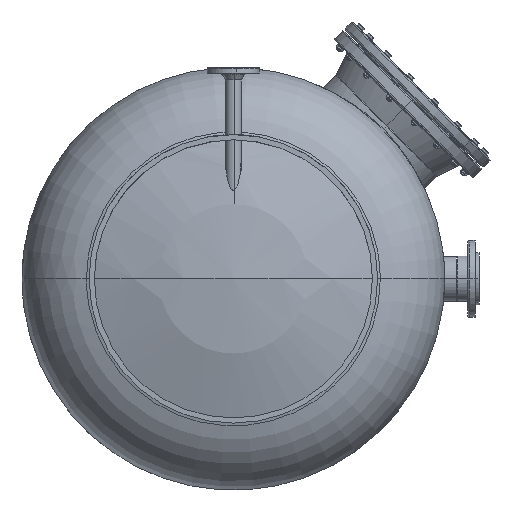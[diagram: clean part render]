
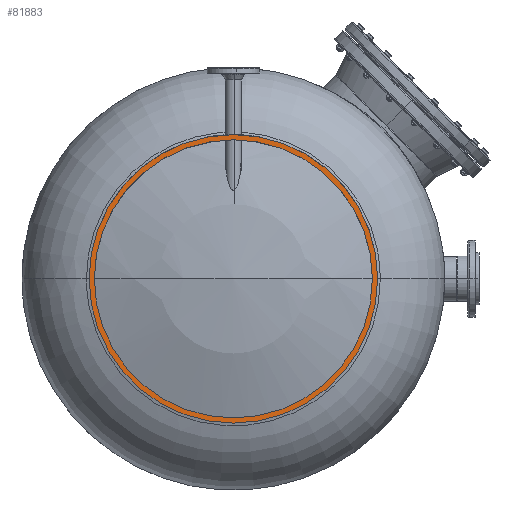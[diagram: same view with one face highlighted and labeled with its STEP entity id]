
A CAD part, front view. The second image highlights one B-rep face of the part: STEP entity #81883.
In plain terms, the highlighted planar face has unit normal (0, -1, 0).
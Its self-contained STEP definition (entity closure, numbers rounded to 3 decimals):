
#997 = DIRECTION ( 'NONE',  ( 0., 1., 0. ) ) ;
#5274 = CARTESIAN_POINT ( 'NONE',  ( 415., 0., -415.041 ) ) ;
#6316 = CARTESIAN_POINT ( 'NONE',  ( 415., 0., -415.041 ) ) ;
#7687 = VERTEX_POINT ( 'NONE', #43391 ) ;
#9596 = DIRECTION ( 'NONE',  ( 0., 1., 0. ) ) ;
#10304 = AXIS2_PLACEMENT_3D ( 'NONE', #6316, #48538, #64126 ) ;
#11215 = ORIENTED_EDGE ( 'NONE', *, *, #54090, .T. ) ;
#16665 = VERTEX_POINT ( 'NONE', #30364 ) ;
#18099 = EDGE_CURVE ( 'NONE', #58456, #7687, #32348, .T. ) ;
#20353 = ORIENTED_EDGE ( 'NONE', *, *, #18099, .F. ) ;
#21111 = DIRECTION ( 'NONE',  ( 1., 0., 0. ) ) ;
#22103 = DIRECTION ( 'NONE',  ( 0., -1., 0. ) ) ;
#24922 = CARTESIAN_POINT ( 'NONE',  ( 15., 0., -415.041 ) ) ;
#25932 = AXIS2_PLACEMENT_3D ( 'NONE', #82041, #997, #90113 ) ;
#30364 = CARTESIAN_POINT ( 'NONE',  ( 815., 0., -415.041 ) ) ;
#30433 = CARTESIAN_POINT ( 'NONE',  ( 830., 0., -415.041 ) ) ;
#32348 = CIRCLE ( 'NONE', #68540, 415. ) ;
#34481 = CIRCLE ( 'NONE', #84678, 400. ) ;
#39362 = EDGE_LOOP ( 'NONE', ( #63733, #91398 ) ) ;
#43391 = CARTESIAN_POINT ( 'NONE',  ( 0., 0., -415.041 ) ) ;
#44210 = CARTESIAN_POINT ( 'NONE',  ( 415., 0., -415.041 ) ) ;
#46274 = VERTEX_POINT ( 'NONE', #24922 ) ;
#46939 = DIRECTION ( 'NONE',  ( 1., 0., 0. ) ) ;
#48538 = DIRECTION ( 'NONE',  ( 0., 1., 0. ) ) ;
#54090 = EDGE_CURVE ( 'NONE', #58456, #7687, #59053, .T. ) ;
#57126 = FACE_BOUND ( 'NONE', #39362, .T. ) ;
#58456 = VERTEX_POINT ( 'NONE', #30433 ) ;
#59053 = CIRCLE ( 'NONE', #100386, 415. ) ;
#63733 = ORIENTED_EDGE ( 'NONE', *, *, #94783, .F. ) ;
#64126 = DIRECTION ( 'NONE',  ( 1., 0., 0. ) ) ;
#65163 = PLANE ( 'NONE',  #10304 ) ;
#68540 = AXIS2_PLACEMENT_3D ( 'NONE', #44210, #9596, #77105 ) ;
#69656 = CARTESIAN_POINT ( 'NONE',  ( 415., 0., -415.041 ) ) ;
#77105 = DIRECTION ( 'NONE',  ( 1., 0., 0. ) ) ;
#77623 = CIRCLE ( 'NONE', #25932, 400. ) ;
#81883 = ADVANCED_FACE ( 'NONE', ( #105669, #57126 ), #65163, .F. ) ;
#82041 = CARTESIAN_POINT ( 'NONE',  ( 415., 0., -415.041 ) ) ;
#84678 = AXIS2_PLACEMENT_3D ( 'NONE', #5274, #22103, #46939 ) ;
#88976 = EDGE_LOOP ( 'NONE', ( #20353, #11215 ) ) ;
#90113 = DIRECTION ( 'NONE',  ( 1., 0., 0. ) ) ;
#91398 = ORIENTED_EDGE ( 'NONE', *, *, #102373, .T. ) ;
#93931 = DIRECTION ( 'NONE',  ( 0., -1., 0. ) ) ;
#94783 = EDGE_CURVE ( 'NONE', #16665, #46274, #34481, .T. ) ;
#100386 = AXIS2_PLACEMENT_3D ( 'NONE', #69656, #93931, #21111 ) ;
#102373 = EDGE_CURVE ( 'NONE', #16665, #46274, #77623, .T. ) ;
#105669 = FACE_OUTER_BOUND ( 'NONE', #88976, .T. ) ;
